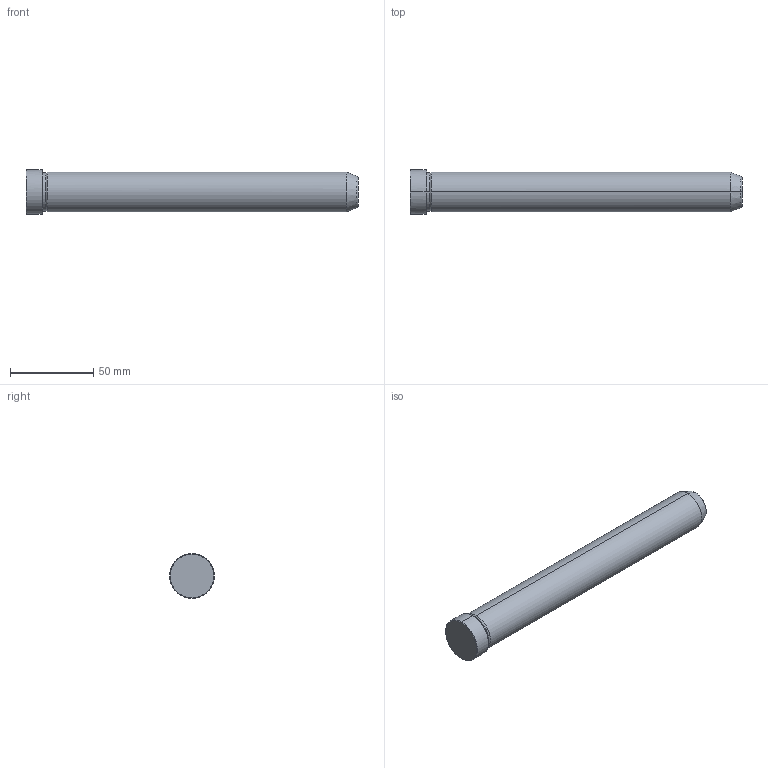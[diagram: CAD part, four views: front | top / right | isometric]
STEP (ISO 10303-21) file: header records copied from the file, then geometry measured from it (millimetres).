
FILE_DESCRIPTION(('CATIA V5 STEP Exchange'),'2;1');
FILE_NAME('C:\Users\Utente\Desktop\IO LAVORO\3D X SITO CF\X SITO\PLASTICA\549\549-24X200.stp','2021-12-17T14:13:42+00:00',('none'),('none'),'CATIA Version 5 Release 20 GA (IN-10)','CATIA V5 STEP AP203','none');
FILE_SCHEMA(('CONFIG_CONTROL_DESIGN'));
Length unit declared in the file: millimetre
Products named in the file (1): 549-24X200
Bounding box: 200 x 27 x 27 mm (x, y, z)
Volume: 90889.7 mm3; surface area: 16104.8 mm2
Topology: 1 solids, 1 shells, 19 faces, 56 edges, 40 vertices
Faces by surface type: cone 8, cylinder 6, plane 3, torus 2
Entity records: 736 total; most frequent: CARTESIAN_POINT 192, ORIENTED_EDGE 112, DIRECTION 86, EDGE_CURVE 56, AXIS2_PLACEMENT_3D 54, VERTEX_POINT 40, CIRCLE 34, EDGE_LOOP 20
